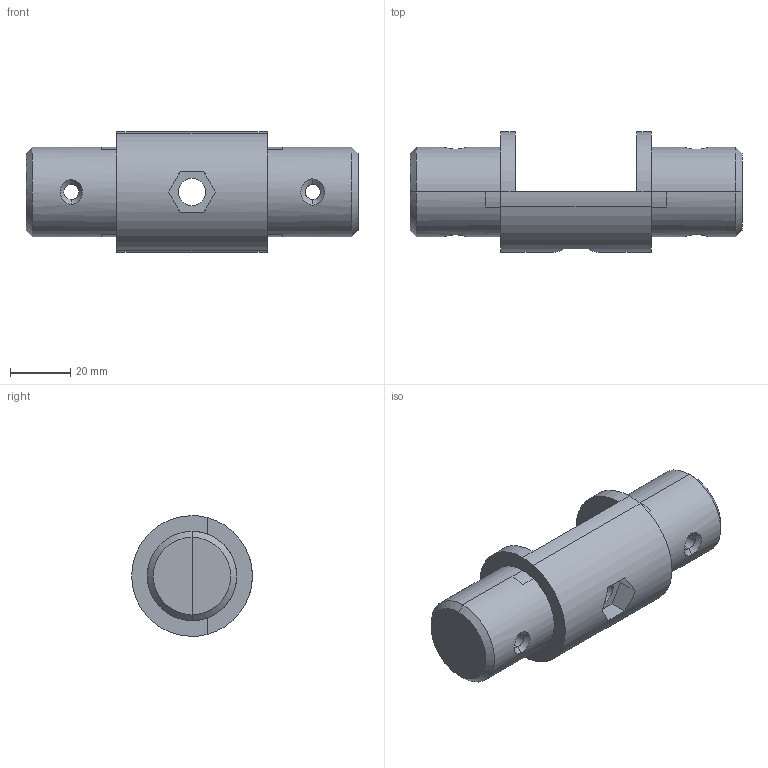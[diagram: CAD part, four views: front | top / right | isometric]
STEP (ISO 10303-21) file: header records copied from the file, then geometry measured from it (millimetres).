
FILE_DESCRIPTION (( 'STEP AP214' ), '1' );
FILE_NAME ('084.313.005.STEP', '2016-07-08T14:27:07', ( '' ), ( '' ), 'SwSTEP 2.0', 'SolidWorks 2016', '' );
FILE_SCHEMA (( 'AUTOMOTIVE_DESIGN' ));
Length unit declared in the file: millimetre
Products named in the file (3): 084.313.005; 084.313.005A; 084.313.005B
Assembly tree (2 placements, depth 2):
  084.313.005
    084.313.005A
    084.313.005B
Bounding box: 110 x 40 x 40 mm (x, y, z)
Volume: 45082.8 mm3; surface area: 28321.9 mm2
Topology: 2 solids, 2 shells, 195 faces, 480 edges, 292 vertices
Faces by surface type: cylinder 74, plane 51, bspline 30, torus 22, cone 14, sphere 4
Entity records: 12828 total; most frequent: CARTESIAN_POINT 8188, ORIENTED_EDGE 952, DIRECTION 912, EDGE_CURVE 476, AXIS2_PLACEMENT_3D 362, VERTEX_POINT 292, EDGE_LOOP 214, FACE_OUTER_BOUND 195
